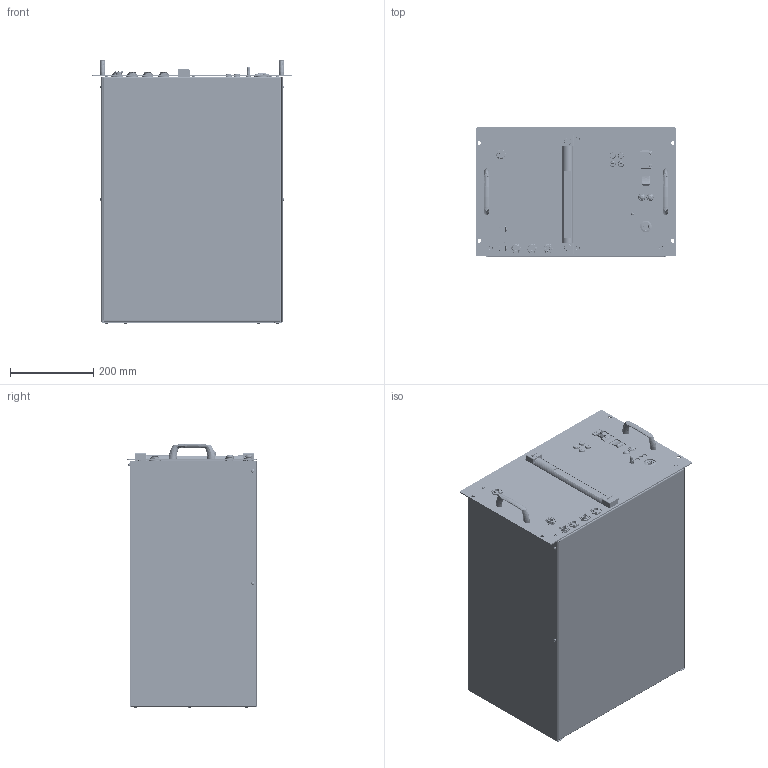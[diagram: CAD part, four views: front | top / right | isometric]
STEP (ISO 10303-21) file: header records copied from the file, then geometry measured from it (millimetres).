
FILE_DESCRIPTION(/* description */ ('WATER TANK MODULE MOBILE - ASSEMBLY'),/* implementation_level */ '2;1');
FILE_NAME(/* name */ 'WTM41-DRW-A0001.stp',/* time_stamp */ '2025-12-16T14:16:30+01:00',/* author */ ('lorenzo.giobbi'),/* organization */ (''),/* preprocessor_version */ 'ST-DEVELOPER v20',/* originating_system */ 'Autodesk Inventor 2023',/* authorisation */ 'MOD');
FILE_SCHEMA (('AUTOMOTIVE_DESIGN { 1 0 10303 214 3 1 1 }'));
Products named in the file (39): WTMME-DRW-A0001; WTMME-DRW-A0004; WTMME-DRW-00003; WTMME-DRW-00004; CPC PLCD120M10; Elesa HCZ.254-PT-VT-M12; WTMME-DRW-00018; WTMME-DRW-00024; AMCB 0604M; ABU 1010M; RS 196-4872; Self clinching stud M3x12; Self clinching stud M4x12; Hex insert UNI 10447 - M4x0.7; WTMME-DRW-00011; WTMME-DRW-A0003; WTMME-DRW-A0009; WTMME-DRW-00009; Harting 09454521561; RS 700-1962; RS 700-1968; RS 700-1971; Phoenix Contact 1840560; TE Conn. 1634201-2; DIN 6797 - J 6,4; RF Solutions ANT-24G-S18-SMAM; RF Solutions ANT-24G-S18-SMAM_1; BH486WS170105-0; Hex insert UNI 10447 - M3x0.5; RS 820-7596; IPR1SAD2L0B; Schurter 3101.0010; Wurth 40063 10; WTMME-DRW-A0010; WTMME-DRW-00012; Elesa M.943-112-B-M5; Wurth 40245 10; Wurth 40064 10; Wurth 40244 10
Assembly tree (103 placements, depth 4):
  WTMME-DRW-A0001
    WTMME-DRW-A0004
      WTMME-DRW-00003
      WTMME-DRW-00004  x2
      CPC PLCD120M10  x2
      ABU 1010M  x4
      Elesa HCZ.254-PT-VT-M12
      WTMME-DRW-00018  x2
      WTMME-DRW-00024  x2
      AMCB 0604M  x2
      RS 196-4872  x2
      Hex insert UNI 10447 - M4x0.7  x25
      Self clinching stud M4x12  x8
      Self clinching stud M3x12  x2
    WTMME-DRW-00011
    WTMME-DRW-A0003
      WTMME-DRW-A0009
        WTMME-DRW-00009
        Harting 09454521561
        RS 700-1962
        RS 700-1968
        RS 700-1971
        Phoenix Contact 1840560
        TE Conn. 1634201-2
        Schurter 3101.0010  x4
        DIN 6797 - J 6,4
        RF Solutions ANT-24G-S18-SMAM
        RF Solutions ANT-24G-S18-SMAM_1
        BH486WS170105-0
        Hex insert UNI 10447 - M3x0.5  x2
        RS 820-7596
        IPR1SAD2L0B
        Wurth 40063 10  x2
    WTMME-DRW-A0010
      WTMME-DRW-00012
      Elesa M.943-112-B-M5  x2
      Wurth 40245 10  x4
    Wurth 40064 10  x11
    Wurth 40244 10  x6
Bounding box: 482 x 310 x 634.45 mm (x, y, z)
Volume: 2517578.1 mm3; surface area: 2990108.2 mm2
Topology: 139 solids, 139 shells, 10507 faces, 27491 edges, 17842 vertices
Faces by surface type: plane 5524, cylinder 2415, bspline 1242, cone 879, torus 437, sphere 10
Full cylindrical faces by diameter (mm): 0.272 x4, 0.32 x4, 0.457 x1, 1 x2, 1.27 x2, 2.286 x2, 2.459 x2, 3 x9, 3.2 x4, 3.242 x25, 3.4 x2, 3.5 x3, 3.8 x3, 4 x37, 4.134 x4, 4.5 x25, 4.6 x4, 4.775 x2, 4.8 x4, 5 x11, 5.41 x4, 5.461 x2, 5.5 x36, 5.537 x2, 5.6 x2, 5.9 x8, 5.934 x2, 6 x7, 6.1 x2, 6.5 x2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
Entity records: 172445 total; most frequent: CARTESIAN_POINT 60202, ORIENTED_EDGE 23372, DIRECTION 21961, EDGE_CURVE 11686, VERTEX_POINT 7592, AXIS2_PLACEMENT_3D 7446, LINE 7069, VECTOR 7069
